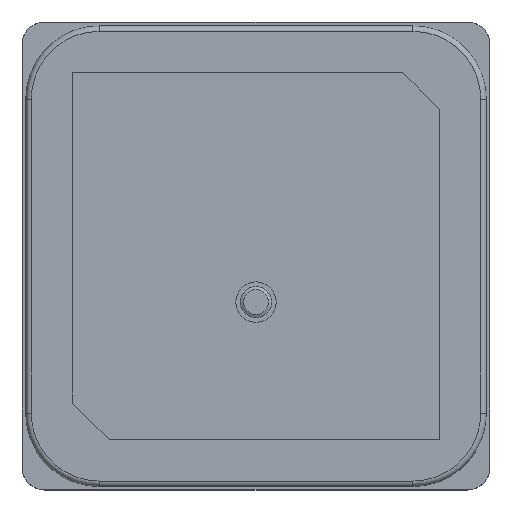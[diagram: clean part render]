
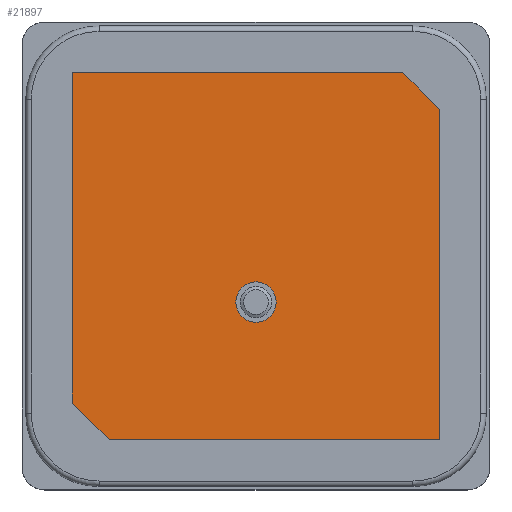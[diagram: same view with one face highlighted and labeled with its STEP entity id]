
A CAD part, top view. The second image highlights one B-rep face of the part: STEP entity #21897.
In plain terms, the highlighted planar face has unit normal (0, 0, 1) as drawn and (0, 1, 0) by its records, which use the part's own axes.
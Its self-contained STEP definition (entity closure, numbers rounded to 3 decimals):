
#511=CIRCLE('',#23690,1.1);
#1108=FACE_BOUND('',#3479,.T.);
#2265=FACE_OUTER_BOUND('',#3478,.T.);
#3478=EDGE_LOOP('',(#19542,#19543,#19544,#19545,#19546,#19547));
#3479=EDGE_LOOP('',(#19548));
#6061=LINE('',#35860,#8644);
#6064=LINE('',#35866,#8647);
#6067=LINE('',#35872,#8650);
#6070=LINE('',#35878,#8653);
#6073=LINE('',#35884,#8656);
#6076=LINE('',#35888,#8659);
#8644=VECTOR('',#29422,1000.);
#8647=VECTOR('',#29427,1000.);
#8650=VECTOR('',#29432,1000.);
#8653=VECTOR('',#29437,1000.);
#8656=VECTOR('',#29442,1000.);
#8659=VECTOR('',#29447,1000.);
#10616=VERTEX_POINT('',#35850);
#10619=VERTEX_POINT('',#35857);
#10620=VERTEX_POINT('',#35859);
#10622=VERTEX_POINT('',#35865);
#10624=VERTEX_POINT('',#35871);
#10626=VERTEX_POINT('',#35877);
#10628=VERTEX_POINT('',#35883);
#13605=EDGE_CURVE('',#10616,#10616,#511,.T.);
#13608=EDGE_CURVE('',#10620,#10619,#6061,.T.);
#13611=EDGE_CURVE('',#10622,#10620,#6064,.T.);
#13614=EDGE_CURVE('',#10624,#10622,#6067,.T.);
#13617=EDGE_CURVE('',#10626,#10624,#6070,.T.);
#13620=EDGE_CURVE('',#10628,#10626,#6073,.T.);
#13623=EDGE_CURVE('',#10619,#10628,#6076,.T.);
#19542=ORIENTED_EDGE('',*,*,#13608,.T.);
#19543=ORIENTED_EDGE('',*,*,#13623,.T.);
#19544=ORIENTED_EDGE('',*,*,#13620,.T.);
#19545=ORIENTED_EDGE('',*,*,#13617,.T.);
#19546=ORIENTED_EDGE('',*,*,#13614,.T.);
#19547=ORIENTED_EDGE('',*,*,#13611,.T.);
#19548=ORIENTED_EDGE('',*,*,#13605,.F.);
#20722=PLANE('',#23697);
#21897=ADVANCED_FACE('',(#2265,#1108),#20722,.T.);
#23690=AXIS2_PLACEMENT_3D('',#35852,#29416,#29417);
#23697=AXIS2_PLACEMENT_3D('',#35889,#29448,#29449);
#29416=DIRECTION('center_axis',(0.,1.,0.));
#29417=DIRECTION('ref_axis',(0.,0.,1.));
#29422=DIRECTION('',(0.,0.,1.));
#29427=DIRECTION('',(-1.,0.,0.));
#29432=DIRECTION('',(-0.707,0.,-0.707));
#29437=DIRECTION('',(0.,0.,-1.));
#29442=DIRECTION('',(1.,0.,0.));
#29447=DIRECTION('',(0.707,0.,0.707));
#29448=DIRECTION('center_axis',(0.,1.,0.));
#29449=DIRECTION('ref_axis',(0.,0.,1.));
#35850=CARTESIAN_POINT('',(0.,4.,1.4));
#35852=CARTESIAN_POINT('Origin',(0.,4.,2.5));
#35857=CARTESIAN_POINT('',(-10.,4.,8.));
#35859=CARTESIAN_POINT('',(-10.,4.,-10.));
#35860=CARTESIAN_POINT('',(-10.,4.,8.));
#35865=CARTESIAN_POINT('',(8.,4.,-10.));
#35866=CARTESIAN_POINT('',(8.,4.,-10.));
#35871=CARTESIAN_POINT('',(10.,4.,-8.));
#35872=CARTESIAN_POINT('',(10.,4.,-8.));
#35877=CARTESIAN_POINT('',(10.,4.,10.));
#35878=CARTESIAN_POINT('',(10.,4.,10.));
#35883=CARTESIAN_POINT('',(-8.,4.,10.));
#35884=CARTESIAN_POINT('',(10.,4.,10.));
#35888=CARTESIAN_POINT('',(-8.,4.,10.));
#35889=CARTESIAN_POINT('Origin',(0.,4.,0.));
